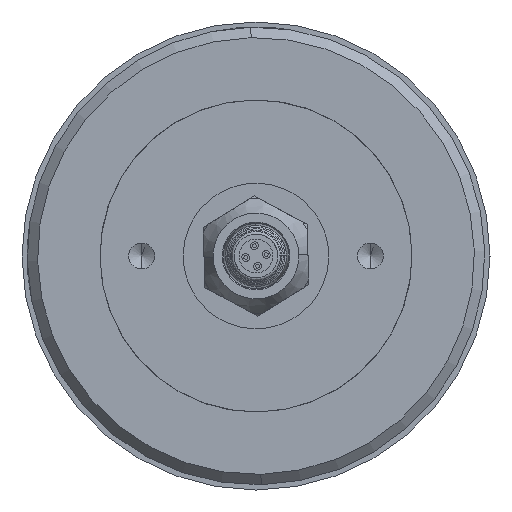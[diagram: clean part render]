
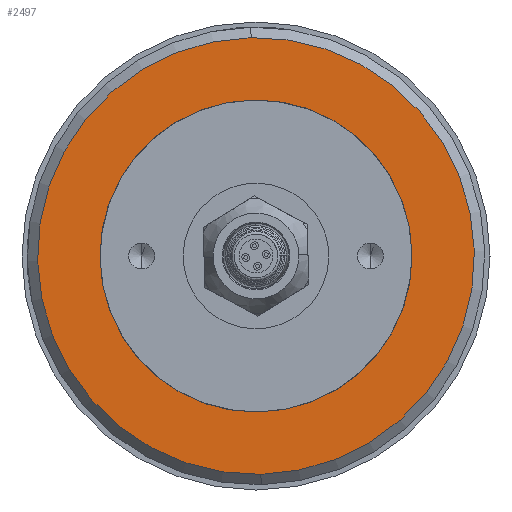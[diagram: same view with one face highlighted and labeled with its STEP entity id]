
A CAD part, left-side view. The second image highlights one B-rep face of the part: STEP entity #2497.
In plain terms, the highlighted planar face has unit normal (-1, 0, 0) as drawn and (1, 0, 0) by its records, which use the part's own axes.
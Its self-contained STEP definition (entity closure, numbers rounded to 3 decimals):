
#598 = VERTEX_POINT ( 'NONE', #8027 ) ;
#909 = CARTESIAN_POINT ( 'NONE',  ( -38.577, 0., 0. ) ) ;
#921 = AXIS2_PLACEMENT_3D ( 'NONE', #1734, #4908, #7494 ) ;
#1319 = ORIENTED_EDGE ( 'NONE', *, *, #6373, .F. ) ;
#1734 = CARTESIAN_POINT ( 'NONE',  ( -38.577, 0., 0. ) ) ;
#1879 = CIRCLE ( 'NONE', #2351, 30. ) ;
#2351 = AXIS2_PLACEMENT_3D ( 'NONE', #5826, #13549, #10345 ) ;
#2497 = ADVANCED_FACE ( 'NONE', ( #12463, #9166 ), #7971, .T. ) ;
#2759 = VERTEX_POINT ( 'NONE', #3732 ) ;
#2945 = CARTESIAN_POINT ( 'NONE',  ( -38.577, 0., 30. ) ) ;
#3191 = CIRCLE ( 'NONE', #13070, 30. ) ;
#3732 = CARTESIAN_POINT ( 'NONE',  ( -38.577, 0., -30. ) ) ;
#4760 = CARTESIAN_POINT ( 'NONE',  ( -38.577, 0., 0. ) ) ;
#4908 = DIRECTION ( 'NONE',  ( 1., 0., 0. ) ) ;
#5559 = DIRECTION ( 'NONE',  ( 0., 0., -1. ) ) ;
#5784 = ORIENTED_EDGE ( 'NONE', *, *, #7811, .T. ) ;
#5826 = CARTESIAN_POINT ( 'NONE',  ( -38.577, 0., 0. ) ) ;
#5884 = DIRECTION ( 'NONE',  ( 0., 0., -1. ) ) ;
#6373 = EDGE_CURVE ( 'NONE', #2759, #9879, #1879, .T. ) ;
#7494 = DIRECTION ( 'NONE',  ( 0., 0., -1. ) ) ;
#7632 = EDGE_CURVE ( 'NONE', #598, #9643, #13657, .T. ) ;
#7811 = EDGE_CURVE ( 'NONE', #9643, #598, #12593, .T. ) ;
#7890 = CARTESIAN_POINT ( 'NONE',  ( -38.577, 0., -30. ) ) ;
#7971 = PLANE ( 'NONE',  #11141 ) ;
#8027 = CARTESIAN_POINT ( 'NONE',  ( -38.577, 0., -42. ) ) ;
#8211 = ORIENTED_EDGE ( 'NONE', *, *, #12843, .F. ) ;
#8587 = AXIS2_PLACEMENT_3D ( 'NONE', #909, #8806, #5559 ) ;
#8740 = CARTESIAN_POINT ( 'NONE',  ( -38.577, 0., 42. ) ) ;
#8806 = DIRECTION ( 'NONE',  ( 1., 0., 0. ) ) ;
#9166 = FACE_BOUND ( 'NONE', #13257, .T. ) ;
#9643 = VERTEX_POINT ( 'NONE', #8740 ) ;
#9879 = VERTEX_POINT ( 'NONE', #2945 ) ;
#10345 = DIRECTION ( 'NONE',  ( 0., 0., -1. ) ) ;
#11141 = AXIS2_PLACEMENT_3D ( 'NONE', #7890, #13481, #13717 ) ;
#11303 = EDGE_LOOP ( 'NONE', ( #5784, #12561 ) ) ;
#12463 = FACE_OUTER_BOUND ( 'NONE', #11303, .T. ) ;
#12561 = ORIENTED_EDGE ( 'NONE', *, *, #7632, .T. ) ;
#12593 = CIRCLE ( 'NONE', #8587, 42. ) ;
#12843 = EDGE_CURVE ( 'NONE', #9879, #2759, #3191, .T. ) ;
#13070 = AXIS2_PLACEMENT_3D ( 'NONE', #4760, #13840, #5884 ) ;
#13257 = EDGE_LOOP ( 'NONE', ( #1319, #8211 ) ) ;
#13481 = DIRECTION ( 'NONE',  ( 1., 0., 0. ) ) ;
#13549 = DIRECTION ( 'NONE',  ( 1., 0., 0. ) ) ;
#13657 = CIRCLE ( 'NONE', #921, 42. ) ;
#13717 = DIRECTION ( 'NONE',  ( 0., 0., -1. ) ) ;
#13840 = DIRECTION ( 'NONE',  ( 1., 0., 0. ) ) ;
